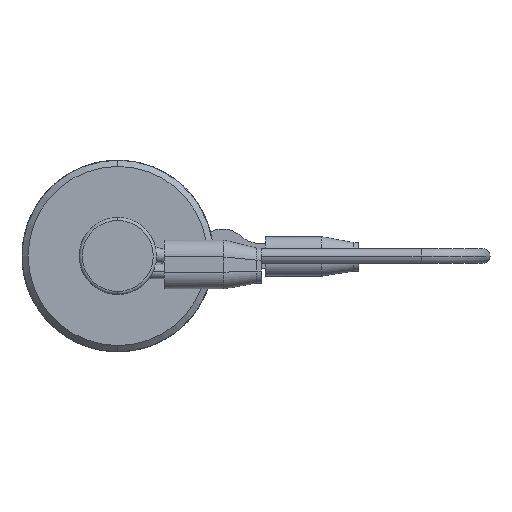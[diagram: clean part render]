
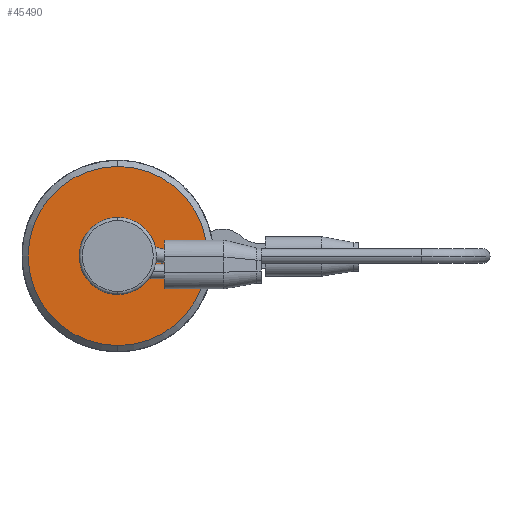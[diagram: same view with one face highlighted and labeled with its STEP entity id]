
A CAD part, left-side view. The second image highlights one B-rep face of the part: STEP entity #45490.
In plain terms, the highlighted planar face has unit normal (-1, 0, 0).
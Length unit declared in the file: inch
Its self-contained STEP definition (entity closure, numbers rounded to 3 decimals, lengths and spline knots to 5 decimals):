
#7855 = VERTEX_POINT ( 'NONE', #69450 ) ;
#9777 = DIRECTION ( 'NONE',  ( 1., 0., 0. ) ) ;
#9877 = CIRCLE ( 'NONE', #12257, 0.25 ) ;
#12257 = AXIS2_PLACEMENT_3D ( 'NONE', #34275, #17334, #40815 ) ;
#13226 = AXIS2_PLACEMENT_3D ( 'NONE', #18099, #69608, #34656 ) ;
#17334 = DIRECTION ( 'NONE',  ( 1., 0., 0. ) ) ;
#18099 = CARTESIAN_POINT ( 'NONE',  ( 0.25, 0., 0. ) ) ;
#21301 = DIRECTION ( 'NONE',  ( 0., 0., 1. ) ) ;
#31089 = CARTESIAN_POINT ( 'NONE',  ( 0.25, 0., 0.25 ) ) ;
#31384 = ORIENTED_EDGE ( 'NONE', *, *, #65019, .F. ) ;
#31960 = EDGE_CURVE ( 'NONE', #69423, #42354, #9877, .T. ) ;
#32427 = CARTESIAN_POINT ( 'NONE',  ( 0.25, 0., 0. ) ) ;
#34275 = CARTESIAN_POINT ( 'NONE',  ( 0.25, 0., 0. ) ) ;
#34656 = DIRECTION ( 'NONE',  ( 0., 0., -1. ) ) ;
#35803 = ORIENTED_EDGE ( 'NONE', *, *, #76052, .T. ) ;
#36551 = CIRCLE ( 'NONE', #13226, 0.5805 ) ;
#36821 = AXIS2_PLACEMENT_3D ( 'NONE', #71389, #40690, #64105 ) ;
#38608 = FACE_BOUND ( 'NONE', #74907, .T. ) ;
#40690 = DIRECTION ( 'NONE',  ( 1., 0., 0. ) ) ;
#40815 = DIRECTION ( 'NONE',  ( 0., 0., -1. ) ) ;
#42354 = VERTEX_POINT ( 'NONE', #31089 ) ;
#43326 = ORIENTED_EDGE ( 'NONE', *, *, #31960, .T. ) ;
#45490 = ADVANCED_FACE ( 'NONE', ( #38608, #50157 ), #50922, .T. ) ;
#50157 = FACE_OUTER_BOUND ( 'NONE', #61203, .T. ) ;
#50545 = DIRECTION ( 'NONE',  ( -1., 0., 0. ) ) ;
#50922 = PLANE ( 'NONE',  #67069 ) ;
#51550 = CIRCLE ( 'NONE', #36821, 0.5805 ) ;
#55882 = DIRECTION ( 'NONE',  ( 0., 0., -1. ) ) ;
#57317 = ORIENTED_EDGE ( 'NONE', *, *, #60449, .F. ) ;
#60449 = EDGE_CURVE ( 'NONE', #7855, #71155, #51550, .T. ) ;
#61203 = EDGE_LOOP ( 'NONE', ( #57317, #31384 ) ) ;
#63940 = AXIS2_PLACEMENT_3D ( 'NONE', #32427, #9777, #55882 ) ;
#63954 = CARTESIAN_POINT ( 'NONE',  ( 0.25, 0., -0.25 ) ) ;
#64105 = DIRECTION ( 'NONE',  ( 0., 0., -1. ) ) ;
#65019 = EDGE_CURVE ( 'NONE', #71155, #7855, #36551, .T. ) ;
#67069 = AXIS2_PLACEMENT_3D ( 'NONE', #68920, #50545, #21301 ) ;
#68920 = CARTESIAN_POINT ( 'NONE',  ( 0.25, 0.5805, 0. ) ) ;
#69423 = VERTEX_POINT ( 'NONE', #63954 ) ;
#69450 = CARTESIAN_POINT ( 'NONE',  ( 0.25, 0., -0.5805 ) ) ;
#69608 = DIRECTION ( 'NONE',  ( 1., 0., 0. ) ) ;
#71155 = VERTEX_POINT ( 'NONE', #72147 ) ;
#71389 = CARTESIAN_POINT ( 'NONE',  ( 0.25, 0., 0. ) ) ;
#72147 = CARTESIAN_POINT ( 'NONE',  ( 0.25, 0., 0.5805 ) ) ;
#74907 = EDGE_LOOP ( 'NONE', ( #43326, #35803 ) ) ;
#74991 = CIRCLE ( 'NONE', #63940, 0.25 ) ;
#76052 = EDGE_CURVE ( 'NONE', #42354, #69423, #74991, .T. ) ;
